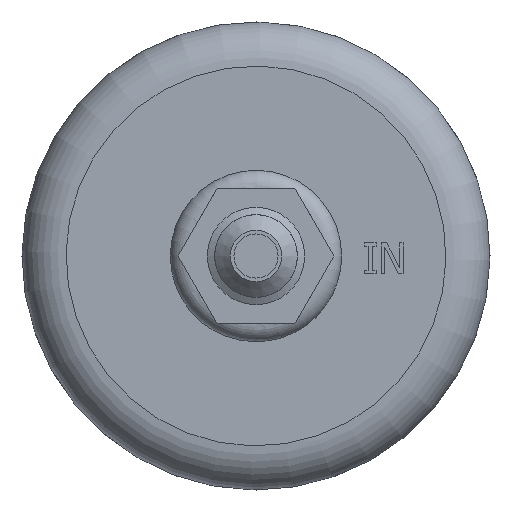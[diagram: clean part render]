
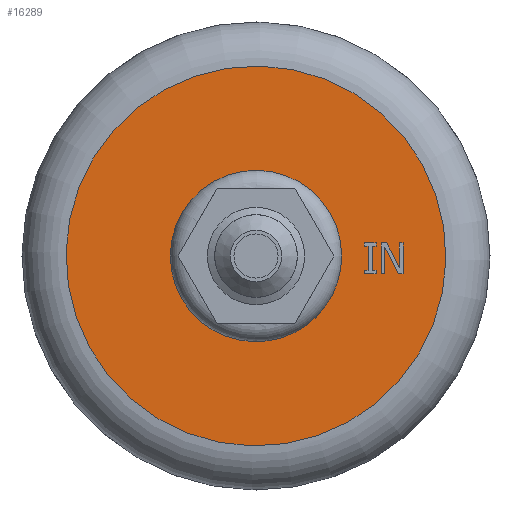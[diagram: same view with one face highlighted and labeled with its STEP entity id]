
A CAD part, front view. The second image highlights one B-rep face of the part: STEP entity #16289.
In plain terms, the highlighted planar face has unit normal (0, -1, 0).
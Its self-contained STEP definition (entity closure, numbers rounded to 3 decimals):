
#607=LINE('',#22298,#1768);
#610=LINE('',#22303,#1771);
#612=LINE('',#22307,#1773);
#614=LINE('',#22311,#1775);
#616=LINE('',#22315,#1777);
#618=LINE('',#22319,#1779);
#619=LINE('',#22322,#1780);
#621=LINE('',#22326,#1782);
#623=LINE('',#22330,#1784);
#625=LINE('',#22334,#1786);
#627=LINE('',#22338,#1788);
#629=LINE('',#22341,#1790);
#632=LINE('',#22349,#1793);
#636=LINE('',#22356,#1797);
#639=LINE('',#22362,#1800);
#642=LINE('',#22368,#1803);
#645=LINE('',#22374,#1806);
#647=LINE('',#22379,#1808);
#650=LINE('',#22385,#1811);
#653=LINE('',#22391,#1814);
#656=LINE('',#22397,#1817);
#659=LINE('',#22401,#1820);
#1768=VECTOR('',#17872,1.937);
#1771=VECTOR('',#17877,0.511);
#1773=VECTOR('',#17881,0.636);
#1775=VECTOR('',#17885,3.979);
#1777=VECTOR('',#17889,0.636);
#1779=VECTOR('',#17893,0.511);
#1780=VECTOR('',#17896,0.511);
#1782=VECTOR('',#17900,0.636);
#1784=VECTOR('',#17904,3.979);
#1786=VECTOR('',#17908,0.636);
#1788=VECTOR('',#17912,0.511);
#1790=VECTOR('',#17916,1.937);
#1793=VECTOR('',#17921,0.746);
#1797=VECTOR('',#17927,4.846);
#1800=VECTOR('',#17932,4.311);
#1803=VECTOR('',#17937,0.62);
#1806=VECTOR('',#17942,5.);
#1808=VECTOR('',#17946,5.);
#1811=VECTOR('',#17951,0.62);
#1814=VECTOR('',#17956,3.959);
#1817=VECTOR('',#17961,4.441);
#1820=VECTOR('',#17966,0.944);
#3188=FACE_BOUND('',#5534,.T.);
#3189=FACE_BOUND('',#5535,.T.);
#3190=FACE_BOUND('',#5536,.T.);
#3191=FACE_BOUND('',#5537,.T.);
#5534=EDGE_LOOP('',(#14674,#14675,#14676,#14677,#14678,#14679,#14680,#14681,
#14682,#14683,#14684,#14685));
#5535=EDGE_LOOP('',(#14686,#14687,#14688,#14689,#14690,#14691,#14692,#14693,
#14694,#14695));
#5536=EDGE_LOOP('',(#14696));
#5537=EDGE_LOOP('',(#14697));
#5986=CIRCLE('',#17645,14.);
#5994=CIRCLE('',#17656,31.017);
#6110=VERTEX_POINT('',#22295);
#6111=VERTEX_POINT('',#22297);
#6112=VERTEX_POINT('',#22301);
#6113=VERTEX_POINT('',#22305);
#6114=VERTEX_POINT('',#22309);
#6115=VERTEX_POINT('',#22313);
#6116=VERTEX_POINT('',#22317);
#6117=VERTEX_POINT('',#22321);
#6118=VERTEX_POINT('',#22325);
#6119=VERTEX_POINT('',#22329);
#6120=VERTEX_POINT('',#22333);
#6121=VERTEX_POINT('',#22337);
#6124=VERTEX_POINT('',#22346);
#6125=VERTEX_POINT('',#22348);
#6127=VERTEX_POINT('',#22354);
#6129=VERTEX_POINT('',#22360);
#6131=VERTEX_POINT('',#22366);
#6133=VERTEX_POINT('',#22372);
#6135=VERTEX_POINT('',#22378);
#6137=VERTEX_POINT('',#22384);
#6139=VERTEX_POINT('',#22390);
#6141=VERTEX_POINT('',#22396);
#7578=VERTEX_POINT('',#32661);
#7592=VERTEX_POINT('',#32692);
#7769=EDGE_CURVE('',#6111,#6110,#607,.T.);
#7772=EDGE_CURVE('',#6110,#6112,#610,.T.);
#7774=EDGE_CURVE('',#6112,#6113,#612,.T.);
#7776=EDGE_CURVE('',#6113,#6114,#614,.T.);
#7778=EDGE_CURVE('',#6114,#6115,#616,.T.);
#7780=EDGE_CURVE('',#6115,#6116,#618,.T.);
#7781=EDGE_CURVE('',#6117,#6111,#619,.T.);
#7783=EDGE_CURVE('',#6118,#6117,#621,.T.);
#7785=EDGE_CURVE('',#6119,#6118,#623,.T.);
#7787=EDGE_CURVE('',#6120,#6119,#625,.T.);
#7789=EDGE_CURVE('',#6121,#6120,#627,.T.);
#7791=EDGE_CURVE('',#6116,#6121,#629,.T.);
#7794=EDGE_CURVE('',#6125,#6124,#632,.T.);
#7798=EDGE_CURVE('',#6124,#6127,#636,.T.);
#7801=EDGE_CURVE('',#6127,#6129,#639,.T.);
#7804=EDGE_CURVE('',#6129,#6131,#642,.T.);
#7807=EDGE_CURVE('',#6131,#6133,#645,.T.);
#7809=EDGE_CURVE('',#6135,#6125,#647,.T.);
#7812=EDGE_CURVE('',#6137,#6135,#650,.T.);
#7815=EDGE_CURVE('',#6139,#6137,#653,.T.);
#7818=EDGE_CURVE('',#6141,#6139,#656,.T.);
#7821=EDGE_CURVE('',#6133,#6141,#659,.T.);
#9969=EDGE_CURVE('',#7578,#7578,#5986,.T.);
#9983=EDGE_CURVE('',#7592,#7592,#5994,.T.);
#14674=ORIENTED_EDGE('',*,*,#7769,.T.);
#14675=ORIENTED_EDGE('',*,*,#7772,.T.);
#14676=ORIENTED_EDGE('',*,*,#7774,.T.);
#14677=ORIENTED_EDGE('',*,*,#7776,.T.);
#14678=ORIENTED_EDGE('',*,*,#7778,.T.);
#14679=ORIENTED_EDGE('',*,*,#7780,.T.);
#14680=ORIENTED_EDGE('',*,*,#7791,.T.);
#14681=ORIENTED_EDGE('',*,*,#7789,.T.);
#14682=ORIENTED_EDGE('',*,*,#7787,.T.);
#14683=ORIENTED_EDGE('',*,*,#7785,.T.);
#14684=ORIENTED_EDGE('',*,*,#7783,.T.);
#14685=ORIENTED_EDGE('',*,*,#7781,.T.);
#14686=ORIENTED_EDGE('',*,*,#7794,.T.);
#14687=ORIENTED_EDGE('',*,*,#7798,.T.);
#14688=ORIENTED_EDGE('',*,*,#7801,.T.);
#14689=ORIENTED_EDGE('',*,*,#7804,.T.);
#14690=ORIENTED_EDGE('',*,*,#7807,.T.);
#14691=ORIENTED_EDGE('',*,*,#7821,.T.);
#14692=ORIENTED_EDGE('',*,*,#7818,.T.);
#14693=ORIENTED_EDGE('',*,*,#7815,.T.);
#14694=ORIENTED_EDGE('',*,*,#7812,.T.);
#14695=ORIENTED_EDGE('',*,*,#7809,.T.);
#14696=ORIENTED_EDGE('',*,*,#9969,.T.);
#14697=ORIENTED_EDGE('',*,*,#9983,.T.);
#15418=PLANE('',#17655);
#16289=ADVANCED_FACE('',(#3188,#3189,#3190,#3191),#15418,.T.);
#17645=AXIS2_PLACEMENT_3D('',#32662,#21464,#21465);
#17655=AXIS2_PLACEMENT_3D('',#32691,#21490,#21491);
#17656=AXIS2_PLACEMENT_3D('',#32693,#21492,#21493);
#17872=DIRECTION('',(1.,0.,0.));
#17877=DIRECTION('',(0.,0.,-1.));
#17881=DIRECTION('',(-1.,0.,0.));
#17885=DIRECTION('',(0.,0.,-1.));
#17889=DIRECTION('',(1.,0.,0.));
#17893=DIRECTION('',(0.,0.,-1.));
#17896=DIRECTION('',(0.,0.,1.));
#17900=DIRECTION('',(-1.,0.,0.));
#17904=DIRECTION('',(0.,0.,1.));
#17908=DIRECTION('',(1.,0.,0.));
#17912=DIRECTION('',(0.,0.,1.));
#17916=DIRECTION('',(-1.,0.,0.));
#17921=DIRECTION('',(-1.,0.,0.));
#17927=DIRECTION('',(-0.457,0.,0.89));
#17932=DIRECTION('',(0.,0.,-1.));
#17937=DIRECTION('',(-1.,0.,0.));
#17942=DIRECTION('',(0.,0.,1.));
#17946=DIRECTION('',(0.,0.,-1.));
#17951=DIRECTION('',(1.,0.,0.));
#17956=DIRECTION('',(0.,0.,1.));
#17961=DIRECTION('',(0.453,0.,-0.891));
#17966=DIRECTION('',(1.,0.,0.));
#21464=DIRECTION('center_axis',(0.,1.,0.));
#21465=DIRECTION('ref_axis',(0.,0.,-1.));
#21490=DIRECTION('center_axis',(0.,-1.,0.));
#21491=DIRECTION('ref_axis',(0.946,0.,0.324));
#21492=DIRECTION('center_axis',(0.,-1.,0.));
#21493=DIRECTION('ref_axis',(0.324,0.,-0.946));
#22295=CARTESIAN_POINT('',(19.612,-26.506,2.13));
#22297=CARTESIAN_POINT('',(17.676,-26.506,2.13));
#22298=CARTESIAN_POINT('',(13.177,-26.506,2.13));
#22301=CARTESIAN_POINT('',(19.612,-26.506,1.62));
#22303=CARTESIAN_POINT('',(19.612,-26.506,-9.02));
#22305=CARTESIAN_POINT('',(18.976,-26.506,1.62));
#22307=CARTESIAN_POINT('',(12.858,-26.506,1.62));
#22309=CARTESIAN_POINT('',(18.976,-26.506,-2.359));
#22311=CARTESIAN_POINT('',(18.976,-26.506,-11.01));
#22313=CARTESIAN_POINT('',(19.612,-26.506,-2.359));
#22315=CARTESIAN_POINT('',(13.177,-26.506,-2.359));
#22317=CARTESIAN_POINT('',(19.612,-26.506,-2.87));
#22319=CARTESIAN_POINT('',(19.612,-26.506,-11.265));
#22321=CARTESIAN_POINT('',(17.676,-26.506,1.62));
#22322=CARTESIAN_POINT('',(17.676,-26.506,-8.765));
#22325=CARTESIAN_POINT('',(18.312,-26.506,1.62));
#22326=CARTESIAN_POINT('',(12.208,-26.506,1.62));
#22329=CARTESIAN_POINT('',(18.312,-26.506,-2.359));
#22330=CARTESIAN_POINT('',(18.312,-26.506,-9.02));
#22333=CARTESIAN_POINT('',(17.676,-26.506,-2.359));
#22334=CARTESIAN_POINT('',(12.526,-26.506,-2.359));
#22337=CARTESIAN_POINT('',(17.676,-26.506,-2.87));
#22338=CARTESIAN_POINT('',(17.676,-26.506,-11.01));
#22341=CARTESIAN_POINT('',(12.208,-26.506,-2.87));
#22346=CARTESIAN_POINT('',(23.267,-26.506,-2.87));
#22348=CARTESIAN_POINT('',(24.013,-26.506,-2.87));
#22349=CARTESIAN_POINT('',(15.004,-26.506,-2.87));
#22354=CARTESIAN_POINT('',(21.055,-26.506,1.441));
#22356=CARTESIAN_POINT('',(23.849,-26.506,-4.003));
#22360=CARTESIAN_POINT('',(21.055,-26.506,-2.87));
#22362=CARTESIAN_POINT('',(21.055,-26.506,-11.265));
#22366=CARTESIAN_POINT('',(20.435,-26.506,-2.87));
#22368=CARTESIAN_POINT('',(13.588,-26.506,-2.87));
#22372=CARTESIAN_POINT('',(20.435,-26.506,2.13));
#22374=CARTESIAN_POINT('',(20.435,-26.506,-8.765));
#22378=CARTESIAN_POINT('',(24.013,-26.506,2.13));
#22379=CARTESIAN_POINT('',(24.013,-26.506,-11.265));
#22384=CARTESIAN_POINT('',(23.393,-26.506,2.13));
#22385=CARTESIAN_POINT('',(15.377,-26.506,2.13));
#22390=CARTESIAN_POINT('',(23.393,-26.506,-1.829));
#22391=CARTESIAN_POINT('',(23.393,-26.506,-8.765));
#22396=CARTESIAN_POINT('',(21.379,-26.506,2.13));
#22397=CARTESIAN_POINT('',(25.284,-26.506,-5.547));
#22401=CARTESIAN_POINT('',(14.06,-26.506,2.13));
#32661=CARTESIAN_POINT('',(14.,-26.506,0.));
#32662=CARTESIAN_POINT('Origin',(0.,-26.506,
0.));
#32691=CARTESIAN_POINT('Origin',(6.741,-26.506,-19.66));
#32692=CARTESIAN_POINT('',(10.06,-26.506,-29.34));
#32693=CARTESIAN_POINT('Origin',(0.,-26.506,
0.));
